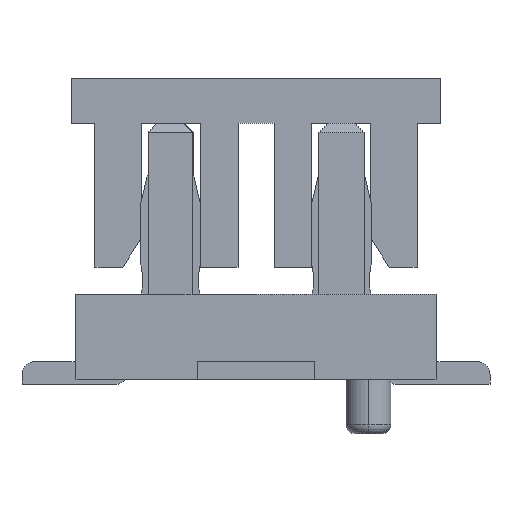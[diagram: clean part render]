
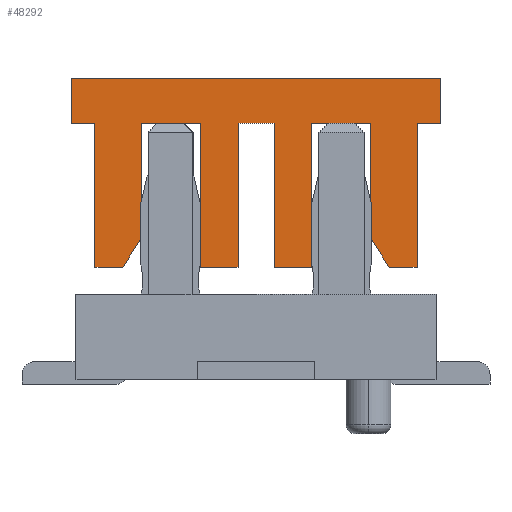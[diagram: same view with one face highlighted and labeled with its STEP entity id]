
A CAD part, left-side view. The second image highlights one B-rep face of the part: STEP entity #48292.
In plain terms, the highlighted planar face has unit normal (-1, 0, 0).
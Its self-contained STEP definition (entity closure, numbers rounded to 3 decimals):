
#47625=CARTESIAN_POINT('Vertex',(-2.,-0.62,1.25)) ;
#47630=CARTESIAN_POINT('Line Origine',(-2.,-0.41,1.25)) ;
#47634=CARTESIAN_POINT('Vertex',(-2.,-0.2,1.25)) ;
#47661=CARTESIAN_POINT('Line Origine',(-2.,-0.2,2.05)) ;
#47665=CARTESIAN_POINT('Vertex',(-2.,-0.2,2.85)) ;
#47692=CARTESIAN_POINT('Line Origine',(-2.,0.,2.85)) ;
#47696=CARTESIAN_POINT('Vertex',(-2.,0.2,2.85)) ;
#47723=CARTESIAN_POINT('Line Origine',(-2.,0.2,2.05)) ;
#47727=CARTESIAN_POINT('Vertex',(-2.,0.2,1.25)) ;
#47749=CARTESIAN_POINT('Line Origine',(-2.,0.41,1.25)) ;
#47753=CARTESIAN_POINT('Vertex',(-2.,0.62,1.25)) ;
#47780=CARTESIAN_POINT('Line Origine',(-2.,0.62,2.05)) ;
#47784=CARTESIAN_POINT('Vertex',(-2.,0.62,2.85)) ;
#47806=CARTESIAN_POINT('Line Origine',(-2.,0.945,2.85)) ;
#47810=CARTESIAN_POINT('Vertex',(-2.,1.27,2.85)) ;
#47837=CARTESIAN_POINT('Line Origine',(-2.,1.27,2.215)) ;
#47841=CARTESIAN_POINT('Vertex',(-2.,1.27,1.58)) ;
#47868=CARTESIAN_POINT('Line Origine',(-2.,1.375,1.415)) ;
#47872=CARTESIAN_POINT('Vertex',(-2.,1.48,1.25)) ;
#47894=CARTESIAN_POINT('Line Origine',(-2.,1.635,1.25)) ;
#47898=CARTESIAN_POINT('Vertex',(-2.,1.79,1.25)) ;
#47925=CARTESIAN_POINT('Line Origine',(-2.,1.79,2.05)) ;
#47929=CARTESIAN_POINT('Vertex',(-2.,1.79,2.85)) ;
#47951=CARTESIAN_POINT('Line Origine',(-2.,1.92,2.85)) ;
#47955=CARTESIAN_POINT('Vertex',(-2.,2.05,2.85)) ;
#47982=CARTESIAN_POINT('Line Origine',(-2.,2.05,3.1)) ;
#47986=CARTESIAN_POINT('Vertex',(-2.,2.05,3.35)) ;
#48013=CARTESIAN_POINT('Line Origine',(-2.,0.,3.35)) ;
#48017=CARTESIAN_POINT('Vertex',(-2.,-2.05,3.35)) ;
#48044=CARTESIAN_POINT('Line Origine',(-2.,-2.05,3.1)) ;
#48048=CARTESIAN_POINT('Vertex',(-2.,-2.05,2.85)) ;
#48070=CARTESIAN_POINT('Line Origine',(-2.,-1.92,2.85)) ;
#48074=CARTESIAN_POINT('Vertex',(-2.,-1.79,2.85)) ;
#48101=CARTESIAN_POINT('Line Origine',(-2.,-1.79,2.05)) ;
#48105=CARTESIAN_POINT('Vertex',(-2.,-1.79,1.25)) ;
#48127=CARTESIAN_POINT('Line Origine',(-2.,-1.635,1.25)) ;
#48131=CARTESIAN_POINT('Vertex',(-2.,-1.48,1.25)) ;
#48158=CARTESIAN_POINT('Line Origine',(-2.,-1.375,1.415)) ;
#48162=CARTESIAN_POINT('Vertex',(-2.,-1.27,1.58)) ;
#48189=CARTESIAN_POINT('Line Origine',(-2.,-1.27,2.215)) ;
#48193=CARTESIAN_POINT('Vertex',(-2.,-1.27,2.85)) ;
#48215=CARTESIAN_POINT('Line Origine',(-2.,-0.945,2.85)) ;
#48219=CARTESIAN_POINT('Vertex',(-2.,-0.62,2.85)) ;
#48246=CARTESIAN_POINT('Line Origine',(-2.,-0.62,2.05)) ;
#48263=CARTESIAN_POINT('Axis2P3D Location',(-2.,0.,0.)) ;
#47631=DIRECTION('Vector Direction',(0.,1.,0.)) ;
#47662=DIRECTION('Vector Direction',(0.,0.,1.)) ;
#47693=DIRECTION('Vector Direction',(0.,1.,0.)) ;
#47724=DIRECTION('Vector Direction',(0.,0.,-1.)) ;
#47750=DIRECTION('Vector Direction',(0.,1.,0.)) ;
#47781=DIRECTION('Vector Direction',(0.,0.,1.)) ;
#47807=DIRECTION('Vector Direction',(0.,1.,0.)) ;
#47838=DIRECTION('Vector Direction',(0.,0.,-1.)) ;
#47869=DIRECTION('Vector Direction',(0.,0.537,-0.844)) ;
#47895=DIRECTION('Vector Direction',(0.,1.,0.)) ;
#47926=DIRECTION('Vector Direction',(0.,0.,1.)) ;
#47952=DIRECTION('Vector Direction',(0.,1.,0.)) ;
#47983=DIRECTION('Vector Direction',(0.,0.,1.)) ;
#48014=DIRECTION('Vector Direction',(0.,1.,0.)) ;
#48045=DIRECTION('Vector Direction',(0.,0.,1.)) ;
#48071=DIRECTION('Vector Direction',(0.,-1.,0.)) ;
#48102=DIRECTION('Vector Direction',(0.,0.,1.)) ;
#48128=DIRECTION('Vector Direction',(0.,-1.,0.)) ;
#48159=DIRECTION('Vector Direction',(0.,-0.537,-0.844)) ;
#48190=DIRECTION('Vector Direction',(0.,0.,-1.)) ;
#48216=DIRECTION('Vector Direction',(0.,-1.,0.)) ;
#48247=DIRECTION('Vector Direction',(0.,0.,1.)) ;
#48264=DIRECTION('Axis2P3D Direction',(1.,0.,0.)) ;
#48265=DIRECTION('Axis2P3D XDirection',(0.,1.,0.)) ;
#48266=AXIS2_PLACEMENT_3D('Plane Axis2P3D',#48263,#48264,#48265) ;
#48269=ORIENTED_EDGE('',*,*,#48250,.F.) ;
#48270=ORIENTED_EDGE('',*,*,#48221,.F.) ;
#48271=ORIENTED_EDGE('',*,*,#48195,.F.) ;
#48272=ORIENTED_EDGE('',*,*,#48164,.F.) ;
#48273=ORIENTED_EDGE('',*,*,#48133,.F.) ;
#48274=ORIENTED_EDGE('',*,*,#48107,.F.) ;
#48275=ORIENTED_EDGE('',*,*,#48076,.F.) ;
#48276=ORIENTED_EDGE('',*,*,#48050,.F.) ;
#48277=ORIENTED_EDGE('',*,*,#48019,.F.) ;
#48278=ORIENTED_EDGE('',*,*,#47988,.F.) ;
#48279=ORIENTED_EDGE('',*,*,#47957,.F.) ;
#48280=ORIENTED_EDGE('',*,*,#47931,.F.) ;
#48281=ORIENTED_EDGE('',*,*,#47900,.F.) ;
#48282=ORIENTED_EDGE('',*,*,#47874,.F.) ;
#48283=ORIENTED_EDGE('',*,*,#47843,.F.) ;
#48284=ORIENTED_EDGE('',*,*,#47812,.F.) ;
#48285=ORIENTED_EDGE('',*,*,#47786,.F.) ;
#48286=ORIENTED_EDGE('',*,*,#47755,.F.) ;
#48287=ORIENTED_EDGE('',*,*,#47729,.F.) ;
#48288=ORIENTED_EDGE('',*,*,#47698,.F.) ;
#48289=ORIENTED_EDGE('',*,*,#47667,.F.) ;
#48290=ORIENTED_EDGE('',*,*,#47636,.F.) ;
#47632=VECTOR('Line Direction',#47631,1.) ;
#47663=VECTOR('Line Direction',#47662,1.) ;
#47694=VECTOR('Line Direction',#47693,1.) ;
#47725=VECTOR('Line Direction',#47724,1.) ;
#47751=VECTOR('Line Direction',#47750,1.) ;
#47782=VECTOR('Line Direction',#47781,1.) ;
#47808=VECTOR('Line Direction',#47807,1.) ;
#47839=VECTOR('Line Direction',#47838,1.) ;
#47870=VECTOR('Line Direction',#47869,1.) ;
#47896=VECTOR('Line Direction',#47895,1.) ;
#47927=VECTOR('Line Direction',#47926,1.) ;
#47953=VECTOR('Line Direction',#47952,1.) ;
#47984=VECTOR('Line Direction',#47983,1.) ;
#48015=VECTOR('Line Direction',#48014,1.) ;
#48046=VECTOR('Line Direction',#48045,1.) ;
#48072=VECTOR('Line Direction',#48071,1.) ;
#48103=VECTOR('Line Direction',#48102,1.) ;
#48129=VECTOR('Line Direction',#48128,1.) ;
#48160=VECTOR('Line Direction',#48159,1.) ;
#48191=VECTOR('Line Direction',#48190,1.) ;
#48217=VECTOR('Line Direction',#48216,1.) ;
#48248=VECTOR('Line Direction',#48247,1.) ;
#48292=ADVANCED_FACE('\X2\76D65B50\X0\',(#48291),#48267,.F.) ;
#47636=EDGE_CURVE('',#47626,#47635,#47633,.T.) ;
#47667=EDGE_CURVE('',#47635,#47666,#47664,.T.) ;
#47698=EDGE_CURVE('',#47666,#47697,#47695,.T.) ;
#47729=EDGE_CURVE('',#47697,#47728,#47726,.T.) ;
#47755=EDGE_CURVE('',#47728,#47754,#47752,.T.) ;
#47786=EDGE_CURVE('',#47754,#47785,#47783,.T.) ;
#47812=EDGE_CURVE('',#47785,#47811,#47809,.T.) ;
#47843=EDGE_CURVE('',#47811,#47842,#47840,.T.) ;
#47874=EDGE_CURVE('',#47842,#47873,#47871,.T.) ;
#47900=EDGE_CURVE('',#47873,#47899,#47897,.T.) ;
#47931=EDGE_CURVE('',#47899,#47930,#47928,.T.) ;
#47957=EDGE_CURVE('',#47930,#47956,#47954,.T.) ;
#47988=EDGE_CURVE('',#47956,#47987,#47985,.T.) ;
#48019=EDGE_CURVE('',#47987,#48018,#48016,.F.) ;
#48050=EDGE_CURVE('',#48018,#48049,#48047,.F.) ;
#48076=EDGE_CURVE('',#48049,#48075,#48073,.F.) ;
#48107=EDGE_CURVE('',#48075,#48106,#48104,.F.) ;
#48133=EDGE_CURVE('',#48106,#48132,#48130,.F.) ;
#48164=EDGE_CURVE('',#48132,#48163,#48161,.F.) ;
#48195=EDGE_CURVE('',#48163,#48194,#48192,.F.) ;
#48221=EDGE_CURVE('',#48194,#48220,#48218,.F.) ;
#48250=EDGE_CURVE('',#48220,#47626,#48249,.F.) ;
#48268=EDGE_LOOP('',(#48269,#48270,#48271,#48272,#48273,#48274,#48275,#48276,#48277,#48278,#48279,#48280,#48281,#48282,#48283,#48284,#48285,#48286,#48287,#48288,#48289,#48290)) ;
#48291=FACE_OUTER_BOUND('',#48268,.T.) ;
#47633=LINE('Line',#47630,#47632) ;
#47664=LINE('Line',#47661,#47663) ;
#47695=LINE('Line',#47692,#47694) ;
#47726=LINE('Line',#47723,#47725) ;
#47752=LINE('Line',#47749,#47751) ;
#47783=LINE('Line',#47780,#47782) ;
#47809=LINE('Line',#47806,#47808) ;
#47840=LINE('Line',#47837,#47839) ;
#47871=LINE('Line',#47868,#47870) ;
#47897=LINE('Line',#47894,#47896) ;
#47928=LINE('Line',#47925,#47927) ;
#47954=LINE('Line',#47951,#47953) ;
#47985=LINE('Line',#47982,#47984) ;
#48016=LINE('Line',#48013,#48015) ;
#48047=LINE('Line',#48044,#48046) ;
#48073=LINE('Line',#48070,#48072) ;
#48104=LINE('Line',#48101,#48103) ;
#48130=LINE('Line',#48127,#48129) ;
#48161=LINE('Line',#48158,#48160) ;
#48192=LINE('Line',#48189,#48191) ;
#48218=LINE('Line',#48215,#48217) ;
#48249=LINE('Line',#48246,#48248) ;
#48267=PLANE('Plane',#48266) ;
#47626=VERTEX_POINT('',#47625) ;
#47635=VERTEX_POINT('',#47634) ;
#47666=VERTEX_POINT('',#47665) ;
#47697=VERTEX_POINT('',#47696) ;
#47728=VERTEX_POINT('',#47727) ;
#47754=VERTEX_POINT('',#47753) ;
#47785=VERTEX_POINT('',#47784) ;
#47811=VERTEX_POINT('',#47810) ;
#47842=VERTEX_POINT('',#47841) ;
#47873=VERTEX_POINT('',#47872) ;
#47899=VERTEX_POINT('',#47898) ;
#47930=VERTEX_POINT('',#47929) ;
#47956=VERTEX_POINT('',#47955) ;
#47987=VERTEX_POINT('',#47986) ;
#48018=VERTEX_POINT('',#48017) ;
#48049=VERTEX_POINT('',#48048) ;
#48075=VERTEX_POINT('',#48074) ;
#48106=VERTEX_POINT('',#48105) ;
#48132=VERTEX_POINT('',#48131) ;
#48163=VERTEX_POINT('',#48162) ;
#48194=VERTEX_POINT('',#48193) ;
#48220=VERTEX_POINT('',#48219) ;
